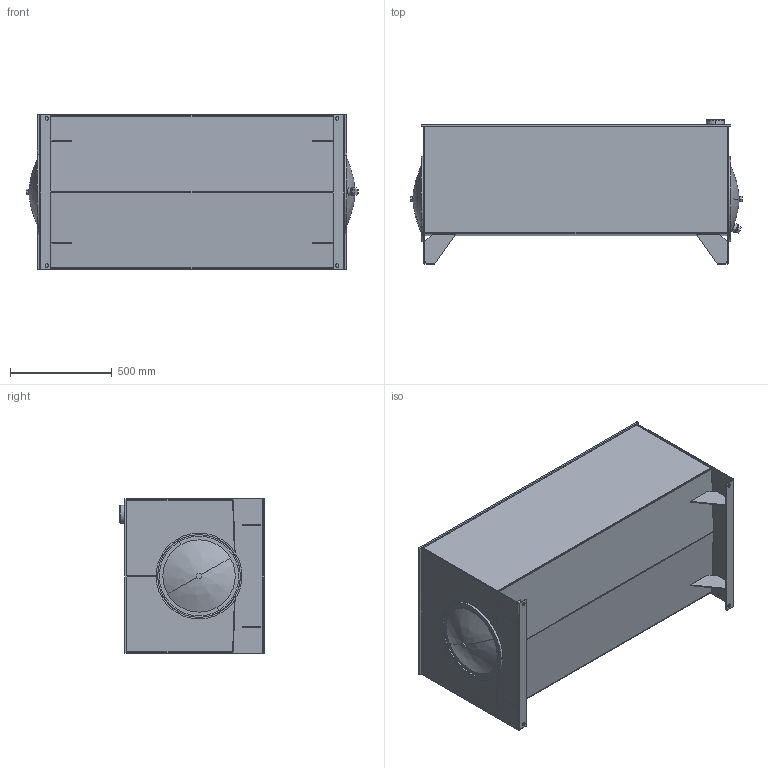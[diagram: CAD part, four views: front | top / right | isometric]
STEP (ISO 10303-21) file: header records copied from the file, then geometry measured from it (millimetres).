
FILE_DESCRIPTION (( 'STEP AP214' ), '1' );
FILE_NAME ('T2-120.STEP', '2022-01-07T14:35:12', ( '' ), ( '' ), 'SwSTEP 2.0', 'SolidWorks 2013', '' );
FILE_SCHEMA (( 'AUTOMOTIVE_DESIGN' ));
Length unit declared in the file: inch
Products named in the file (17): 16.00 END COVER; 0.625 - 11 BAFFLE NUT; T2-120-GST; T2-120-LD; DRAIN; CRUSH WASHER; 16.00 END COVER WITH DRAIN; 0.625 - 11 HEX BOLT; 16.00 GASKET; T2-120-BDY; T2-120; T2-120-EA; TL-EC-16; T2-120-BFL; T2-120-EB; TL-ECD-16; FILLER RISER
Assembly tree (23 placements, depth 3):
  T2-120
    T2-120-LD
    T2-120-EA
    T2-120-EB
    T2-120-BDY
    T2-120-BFL
    T2-120-GST  x4
    FILLER RISER
    TL-EC-16
      16.00 END COVER
      16.00 GASKET
      CRUSH WASHER
      0.625 - 11 HEX BOLT
      0.625 - 11 BAFFLE NUT
    TL-ECD-16
      16.00 GASKET
      CRUSH WASHER
      0.625 - 11 HEX BOLT
      0.625 - 11 BAFFLE NUT
      16.00 END COVER WITH DRAIN
      DRAIN
Bounding box: 1633.2 x 711.2 x 762 mm (x, y, z)
Volume: 28956846.3 mm3; surface area: 12037143.4 mm2
Topology: 22 solids, 22 shells, 294 faces, 676 edges, 434 vertices
Faces by surface type: plane 165, cylinder 109, cone 10, bspline 8, torus 2
Entity records: 8553 total; most frequent: CARTESIAN_POINT 1469, DIRECTION 1242, ORIENTED_EDGE 1076, EDGE_CURVE 538, AXIS2_PLACEMENT_3D 465, VERTEX_POINT 342, VECTOR 312, LINE 312
